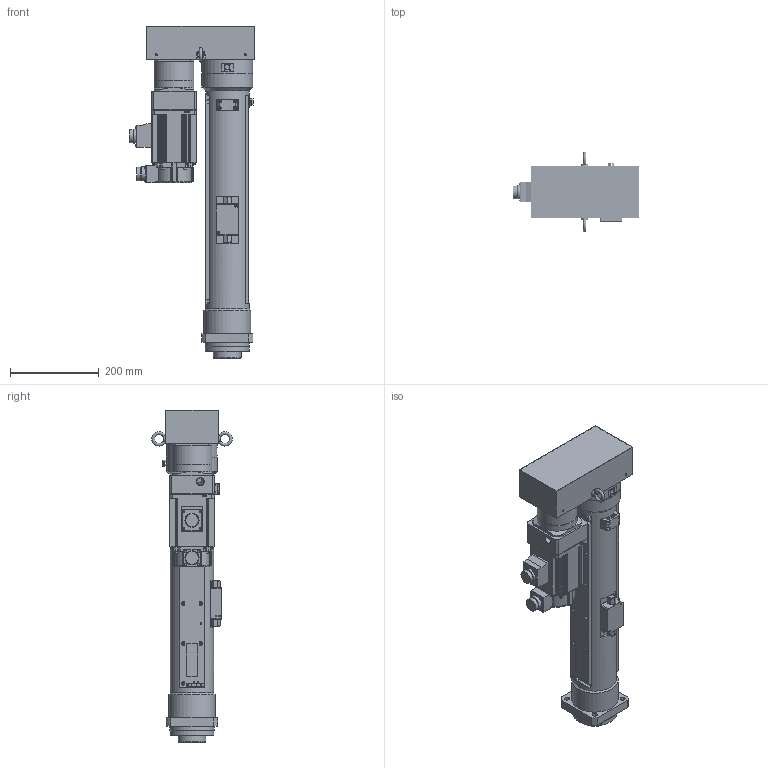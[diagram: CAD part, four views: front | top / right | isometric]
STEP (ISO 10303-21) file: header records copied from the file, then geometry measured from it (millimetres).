
FILE_DESCRIPTION( ('This file contains a STEP AP42 implementation' ,'as created by ZW3D STEP Interface translator.') ,'2;1' );
FILE_NAME( 'P010-400-200-A6V200_ASM_20.51.stp' ,'26 414.153344', (''), ('ZWCAD Software Co.'), 'Version 1.0', 'ZW3D to STEP translator', '' );
FILE_SCHEMA(('AUTOMOTIVE_DESIGN { 1 0 10303 214 1 1 1 1 }'));
Length unit declared in the file: millimetre
Products named in the file (1): 0
Bounding box: 283 x 180.9 x 748 mm (x, y, z)
Volume: 6044196.9 mm3; surface area: 1320534.8 mm2
Topology: 43 solids, 46 shells, 1892 faces, 4783 edges, 3167 vertices
Faces by surface type: cylinder 795, plane 765, cone 230, torus 71, sphere 21, bspline 10
Full cylindrical faces by diameter (mm): 1.6 x8, 2.459 x5, 2.75 x4, 3.2 x5, 3.3 x89, 4.2 x4, 4.3 x32, 4.5 x4, 5 x34, 5.6 x5, 6.5 x4, 6.6 x14, 6.647 x5, 6.8 x36, 7 x12, 8 x47, 8.4 x8, 8.5 x17, 9 x4, 11 x12, 12 x1, 15 x8, 15.5 x2, 16.5 x2, 18 x3, 18.917 x2, 19 x2, 20 x5, 22 x1, 23 x1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
Entity records: 63502 total; most frequent: CARTESIAN_POINT 13443, DIRECTION 10433, ORIENTED_EDGE 9354, EDGE_CURVE 4688, AXIS2_PLACEMENT_3D 4008, VERTEX_POINT 3112, VECTOR 2417, LINE 2417
